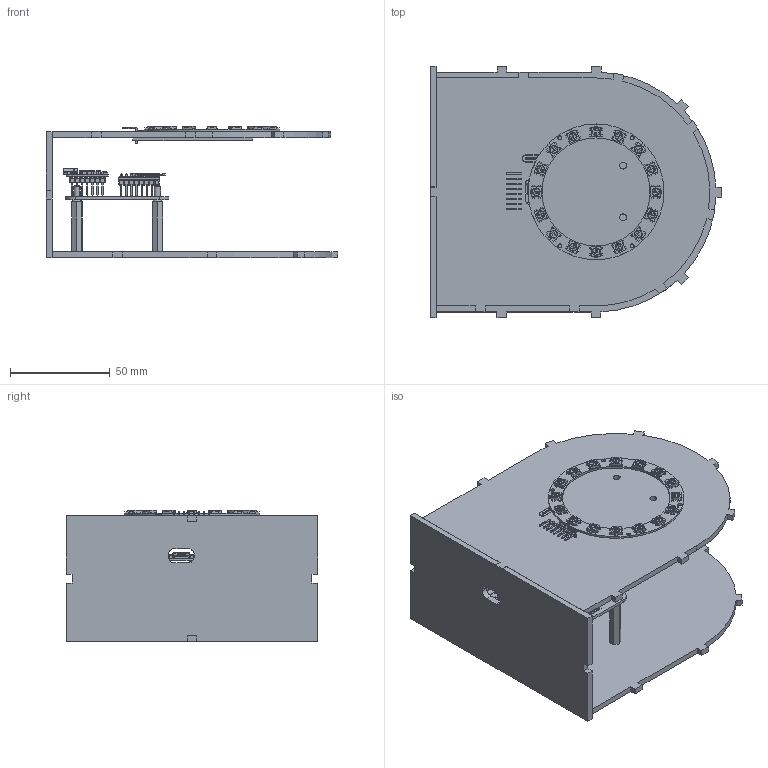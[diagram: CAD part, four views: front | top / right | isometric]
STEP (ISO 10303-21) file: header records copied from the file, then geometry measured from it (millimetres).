
FILE_DESCRIPTION(/* description */ (''),/* implementation_level */ '2;1');
FILE_NAME(/* name */ 'final_cad (Assembly).step',/* time_stamp */ '2026-06-03T12:58:09+03:00',/* author */ (''),/* organization */ (''),/* preprocessor_version */ 'ST-DEVELOPER v20.1',/* originating_system */ 'Autodesk Translation Framework v15.8.0.0',/* authorisation */ '');
FILE_SCHEMA (('AUTOMOTIVE_DESIGN { 1 0 10303 214 3 1 1 }'));
Products named in the file (84): 2026-05-17-18-19-02-300; 2026-05-17-15-19-23-293; 2026-05-17-15-19-23-294; 2026-05-17-15-19-23-295; 2026-05-17-15-19-23-296; 2026-05-18-05-21-07-484; 2026-05-18-05-21-07-485; 2026-05-18-05-21-07-486; 2026-05-18-05-21-07-487; 2026-05-18-05-21-27-973; 2026-05-18-05-21-27-974; 2026-05-18-05-21-27-975; 2026-05-18-05-21-27-976; 2026-05-18-05-21-27-977; 2026-05-18-05-21-27-978; 2026-05-18-05-21-27-978_1; 2026-05-18-05-21-27-978_2; 2026-05-18-05-21-27-978_3; 2026-05-18-05-21-27-978_4; 2026-05-18-05-21-27-978_5; 2026-05-18-05-21-27-978_6; 2026-05-18-05-21-27-978_7; 2026-05-18-05-21-27-978_8; 2026-05-18-05-21-27-978_9; 2026-05-18-05-21-27-978_10; 2026-05-18-05-21-27-978_11; 2026-05-18-05-21-27-978_12; 2026-05-18-05-21-27-978_13; 2026-05-18-05-21-27-978_14; 2026-05-18-05-21-27-978_15; 2026-05-18-05-21-27-979; 2026-05-18-05-21-27-980; 2026-05-18-05-21-27-981; 2026-05-18-05-25-03-308; 2026-05-18-05-25-03-309; 2026-05-18-05-25-03-310; 2026-05-18-05-25-03-311; 2026-05-18-05-25-03-312; 2026-05-18-05-25-03-313; 2026-05-18-05-25-03-314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
Assembly tree (192 placements, depth 6):
  2026-05-17-18-19-02-300
    2026-05-17-15-19-23-293
      2026-05-17-15-19-23-294
      2026-05-17-15-19-23-295  x16
      2026-05-17-15-19-23-296  x16
    2026-05-18-05-21-07-484
      2026-05-18-05-21-07-485
      2026-05-18-05-21-07-486
      2026-05-18-05-21-07-487
      2026-05-18-05-21-27-973
        2026-05-18-05-21-27-974
        2026-05-18-05-21-27-975
          2026-05-18-05-21-27-976
          2026-05-18-05-21-27-977
        2026-05-18-05-21-27-978
          2026-05-18-05-21-27-979
          2026-05-18-05-21-27-980
          2026-05-18-05-21-27-981
        2026-05-18-05-21-27-978_1
          2026-05-18-05-21-27-979
          2026-05-18-05-21-27-980
          2026-05-18-05-21-27-981
        2026-05-18-05-21-27-978_2
          2026-05-18-05-21-27-979
          2026-05-18-05-21-27-980
          2026-05-18-05-21-27-981
        2026-05-18-05-21-27-978_3
          2026-05-18-05-21-27-979
          2026-05-18-05-21-27-980
          2026-05-18-05-21-27-981
        2026-05-18-05-21-27-978_4
          2026-05-18-05-21-27-979
          2026-05-18-05-21-27-980
          2026-05-18-05-21-27-981
        2026-05-18-05-21-27-978_5
          2026-05-18-05-21-27-979
          2026-05-18-05-21-27-980
          2026-05-18-05-21-27-981
        2026-05-18-05-21-27-978_6
          2026-05-18-05-21-27-979
          2026-05-18-05-21-27-980
          2026-05-18-05-21-27-981
        2026-05-18-05-21-27-978_7
          2026-05-18-05-21-27-979
          2026-05-18-05-21-27-980
          2026-05-18-05-21-27-981
        2026-05-18-05-21-27-978_8
          2026-05-18-05-21-27-979
          2026-05-18-05-21-27-980
          2026-05-18-05-21-27-981
        2026-05-18-05-21-27-978_9
          2026-05-18-05-21-27-979
          2026-05-18-05-21-27-980
          2026-05-18-05-21-27-981
        2026-05-18-05-21-27-978_10
          2026-05-18-05-21-27-979
          2026-05-18-05-21-27-980
          2026-05-18-05-21-27-981
        2026-05-18-05-21-27-978_11
          2026-05-18-05-21-27-979
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Bounding box: 145.94 x 125.89 x 65.7 mm (x, y, z)
Volume: 126247.2 mm3; surface area: 106851.7 mm2
Topology: 370 solids, 370 shells, 11032 faces, 28738 edges, 18849 vertices
Faces by surface type: plane 7376, bspline 1976, cylinder 1456, sphere 136, torus 48, cone 40
Full cylindrical faces by diameter (mm): 0.3 x32, 0.5 x3, 0.6 x2, 0.7 x2, 0.75 x14, 0.8 x2, 1 x33, 1.1 x8, 1.146 x16, 1.5 x10, 1.524 x6, 1.65 x1, 1.9 x1, 2 x10, 2.886 x4, 3 x8, 3.2 x4, 3.4 x4, 4.05 x12, 4.1 x8, 4.3 x8, 54 x1, 68 x1
Entity records: 262949 total; most frequent: CARTESIAN_POINT 73347, ORIENTED_EDGE 41636, DIRECTION 31671, EDGE_CURVE 20818, LINE 15271, VECTOR 15271, VERTEX_POINT 13793, EDGE_LOOP 8659
